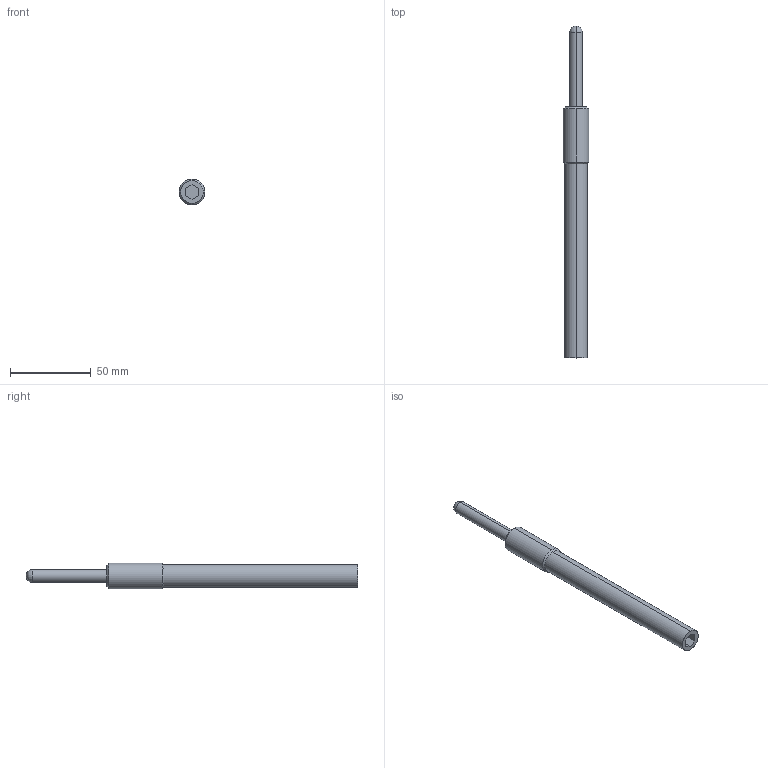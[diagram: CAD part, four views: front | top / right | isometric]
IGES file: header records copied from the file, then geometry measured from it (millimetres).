
Start section: START RECORD GO HERE.
Global section: file name: M314-04-014.igs; native system: DASSAULT SYSTEMES CATIA V5 R20 - www.3ds.com; preprocessor: CATIA Version 5 Release 20 ; author: Utente; organization: NB04-ASUS; date: 20200418.091129; units: millimetre
Bounding box: 16 x 205 x 16 mm (x, y, z)
Surface area: 8798.5 mm2 (no closed solid volume)
Topology: 0 solids, 0 shells, 21 faces, 90 edges, 88 vertices
Faces by surface type: revolution 12, extrusion 9
